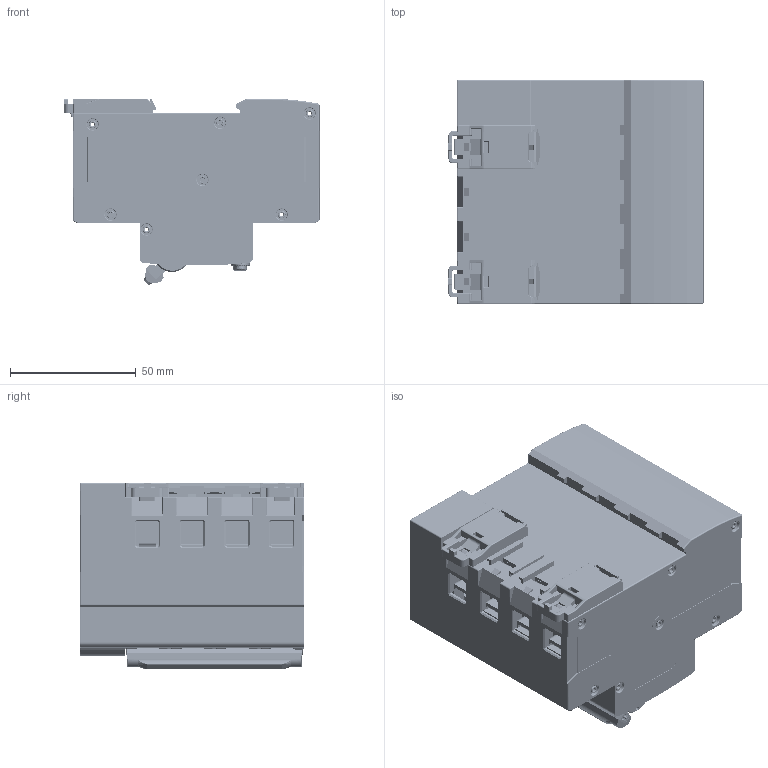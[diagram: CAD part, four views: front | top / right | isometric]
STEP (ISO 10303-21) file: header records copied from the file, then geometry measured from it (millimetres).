
FILE_DESCRIPTION((''),'2;1');
FILE_NAME('NB2LE-80ZT_3P_N0001_ASM','2023-07-15T11:21:04',('xiaxm'),(''),'CREO PARAMETRIC BY PTC INC, 2020044','CREO PARAMETRIC BY PTC INC, 2020044','');
FILE_SCHEMA(('CONFIG_CONTROL_DESIGN','SHAPE_APPEARANCE_LAYERS_GROUPS'));
Products named in the file (1): NB2LE-80ZT_3P_N0001_ASM
Bounding box: 101.3 x 89.1 x 74.14 mm (x, y, z)
Volume: 53402.5 mm3; surface area: 224616.8 mm2
Topology: 19 solids, 52 shells, 10570 faces, 29584 edges, 19298 vertices
Faces by surface type: plane 7306, cylinder 2404, torus 457, cone 311, bspline 43, sphere 37, extrusion 12
Entity records: 416522 total; most frequent: CARTESIAN_POINT 67328, ORIENTED_EDGE 59007, DIRECTION 56462, EDGE_CURVE 29540, VECTOR 21526, LINE 21514, VERTEX_POINT 19298, AXIS2_PLACEMENT_3D 17468
